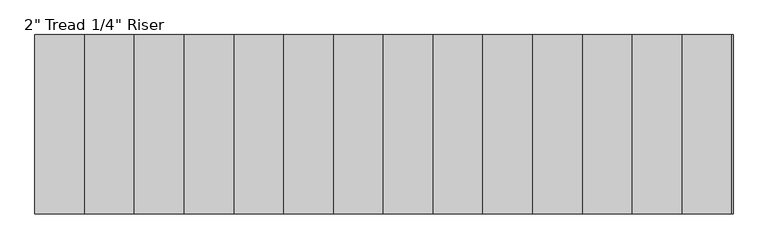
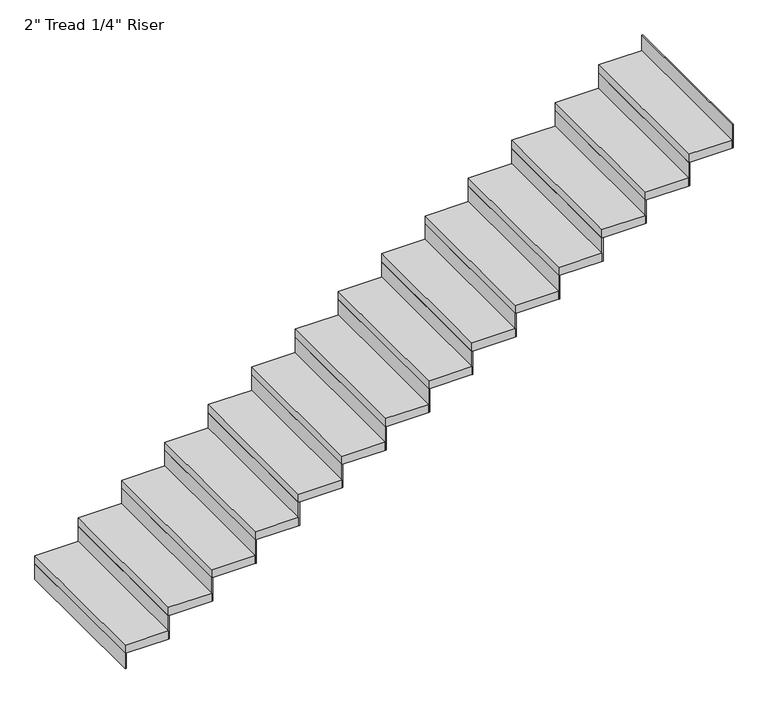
"""IFC4 building model written with IfcOpenShell, lengths in millimetres: stair flight geometry."""

from ifc_helpers import new_model, si_unit, frame, origin, origin_with_axes, place, context, project, spatial, polyline, outline, extrude, source, transform, mapped, element, save


def stair_flight_70c68906(model_context):
    return source(origin(), model_context, "Body", "SweptSolid", [
        extrude(outline(polyline([(46401.0741768, 43330.9361774), (46394.7241768, 43330.9361774), (46394.7241768, 44245.3361774), (46401.0741768, 44245.3361774), (46401.0741768, 43330.9361774)])), origin_with_axes(), (0.0, 0.0, 1.0), 94.3428571),
        extrude(outline(polyline([(46648.7241768, 44245.3361774), (46648.7241768, 43330.9361774), (46394.7241768, 43330.9361774), (46394.7241768, 44245.3361774), (46648.7241768, 44245.3361774)])), frame((0.0, 0.0, 94.3428571), z_axis=(0.0, 0.0, 1.0), x_axis=(1.0, 0.0, 0.0)), (0.0, 0.0, 1.0), 50.8),
        extrude(outline(polyline([(46655.0741768, 43330.9361774), (46648.7241768, 43330.9361774), (46648.7241768, 44245.3361774), (46655.0741768, 44245.3361774), (46655.0741768, 43330.9361774)])), frame((0.0, 0.0, 94.3428571), z_axis=(0.0, 0.0, 1.0), x_axis=(1.0, 0.0, 0.0)), (0.0, 0.0, 1.0), 145.1428571),
        extrude(outline(polyline([(46902.7241768, 44245.3361774), (46902.7241768, 43330.9361774), (46648.7241768, 43330.9361774), (46648.7241768, 44245.3361774), (46902.7241768, 44245.3361774)])), frame((0.0, 0.0, 239.4857143), z_axis=(0.0, 0.0, 1.0), x_axis=(1.0, 0.0, 0.0)), (0.0, 0.0, 1.0), 50.8),
        extrude(outline(polyline([(46909.0741768, 43330.9361774), (46902.7241768, 43330.9361774), (46902.7241768, 44245.3361774), (46909.0741768, 44245.3361774), (46909.0741768, 43330.9361774)])), frame((0.0, 0.0, 239.4857143), z_axis=(0.0, 0.0, 1.0), x_axis=(1.0, 0.0, 0.0)), (0.0, 0.0, 1.0), 145.1428571),
        extrude(outline(polyline([(47156.7241768, 44245.3361774), (47156.7241768, 43330.9361774), (46902.7241768, 43330.9361774), (46902.7241768, 44245.3361774), (47156.7241768, 44245.3361774)])), frame((0.0, 0.0, 384.6285714), z_axis=(0.0, 0.0, 1.0), x_axis=(1.0, 0.0, 0.0)), (0.0, 0.0, 1.0), 50.8),
        extrude(outline(polyline([(47163.0741768, 43330.9361774), (47156.7241768, 43330.9361774), (47156.7241768, 44245.3361774), (47163.0741768, 44245.3361774), (47163.0741768, 43330.9361774)])), frame((0.0, 0.0, 384.6285714), z_axis=(0.0, 0.0, 1.0), x_axis=(1.0, 0.0, 0.0)), (0.0, 0.0, 1.0), 145.1428571),
        extrude(outline(polyline([(47410.7241768, 44245.3361774), (47410.7241768, 43330.9361774), (47156.7241768, 43330.9361774), (47156.7241768, 44245.3361774), (47410.7241768, 44245.3361774)])), frame((0.0, 0.0, 529.7714286), z_axis=(0.0, 0.0, 1.0), x_axis=(1.0, 0.0, 0.0)), (0.0, 0.0, 1.0), 50.8),
        extrude(outline(polyline([(47417.0741768, 43330.9361774), (47410.7241768, 43330.9361774), (47410.7241768, 44245.3361774), (47417.0741768, 44245.3361774), (47417.0741768, 43330.9361774)])), frame((0.0, 0.0, 529.7714286), z_axis=(0.0, 0.0, 1.0), x_axis=(1.0, 0.0, 0.0)), (0.0, 0.0, 1.0), 145.1428571),
        extrude(outline(polyline([(47664.7241768, 44245.3361774), (47664.7241768, 43330.9361774), (47410.7241768, 43330.9361774), (47410.7241768, 44245.3361774), (47664.7241768, 44245.3361774)])), frame((0.0, 0.0, 674.9142857), z_axis=(0.0, 0.0, 1.0), x_axis=(1.0, 0.0, 0.0)), (0.0, 0.0, 1.0), 50.8),
        extrude(outline(polyline([(47671.0741768, 43330.9361774), (47664.7241768, 43330.9361774), (47664.7241768, 44245.3361774), (47671.0741768, 44245.3361774), (47671.0741768, 43330.9361774)])), frame((0.0, 0.0, 674.9142857), z_axis=(0.0, 0.0, 1.0), x_axis=(1.0, 0.0, 0.0)), (0.0, 0.0, 1.0), 145.1428571),
        extrude(outline(polyline([(47918.7241768, 44245.3361774), (47918.7241768, 43330.9361774), (47664.7241768, 43330.9361774), (47664.7241768, 44245.3361774), (47918.7241768, 44245.3361774)])), frame((0.0, 0.0, 820.0571429), z_axis=(0.0, 0.0, 1.0), x_axis=(1.0, 0.0, 0.0)), (0.0, 0.0, 1.0), 50.8),
        extrude(outline(polyline([(47925.0741768, 43330.9361774), (47918.7241768, 43330.9361774), (47918.7241768, 44245.3361774), (47925.0741768, 44245.3361774), (47925.0741768, 43330.9361774)])), frame((0.0, 0.0, 820.0571429), z_axis=(0.0, 0.0, 1.0), x_axis=(1.0, 0.0, 0.0)), (0.0, 0.0, 1.0), 145.1428571),
        extrude(outline(polyline([(48172.7241768, 44245.3361774), (48172.7241768, 43330.9361774), (47918.7241768, 43330.9361774), (47918.7241768, 44245.3361774), (48172.7241768, 44245.3361774)])), frame((0.0, 0.0, 965.2), z_axis=(0.0, 0.0, 1.0), x_axis=(1.0, 0.0, 0.0)), (0.0, 0.0, 1.0), 50.8),
        extrude(outline(polyline([(48179.0741768, 43330.9361774), (48172.7241768, 43330.9361774), (48172.7241768, 44245.3361774), (48179.0741768, 44245.3361774), (48179.0741768, 43330.9361774)])), frame((0.0, 0.0, 965.2), z_axis=(0.0, 0.0, 1.0), x_axis=(1.0, 0.0, 0.0)), (0.0, 0.0, 1.0), 145.1428571),
        extrude(outline(polyline([(48426.7241768, 44245.3361774), (48426.7241768, 43330.9361774), (48172.7241768, 43330.9361774), (48172.7241768, 44245.3361774), (48426.7241768, 44245.3361774)])), frame((0.0, 0.0, 1110.3428571), z_axis=(0.0, 0.0, 1.0), x_axis=(1.0, 0.0, 0.0)), (0.0, 0.0, 1.0), 50.8),
        extrude(outline(polyline([(48433.0741768, 43330.9361774), (48426.7241768, 43330.9361774), (48426.7241768, 44245.3361774), (48433.0741768, 44245.3361774), (48433.0741768, 43330.9361774)])), frame((0.0, 0.0, 1110.3428571), z_axis=(0.0, 0.0, 1.0), x_axis=(1.0, 0.0, 0.0)), (0.0, 0.0, 1.0), 145.1428571),
        extrude(outline(polyline([(48680.7241768, 44245.3361774), (48680.7241768, 43330.9361774), (48426.7241768, 43330.9361774), (48426.7241768, 44245.3361774), (48680.7241768, 44245.3361774)])), frame((0.0, 0.0, 1255.4857143), z_axis=(0.0, 0.0, 1.0), x_axis=(1.0, 0.0, 0.0)), (0.0, 0.0, 1.0), 50.8),
        extrude(outline(polyline([(48687.0741768, 43330.9361774), (48680.7241768, 43330.9361774), (48680.7241768, 44245.3361774), (48687.0741768, 44245.3361774), (48687.0741768, 43330.9361774)])), frame((0.0, 0.0, 1255.4857143), z_axis=(0.0, 0.0, 1.0), x_axis=(1.0, 0.0, 0.0)), (0.0, 0.0, 1.0), 145.1428571),
        extrude(outline(polyline([(48934.7241768, 44245.3361774), (48934.7241768, 43330.9361774), (48680.7241768, 43330.9361774), (48680.7241768, 44245.3361774), (48934.7241768, 44245.3361774)])), frame((0.0, 0.0, 1400.6285714), z_axis=(0.0, 0.0, 1.0), x_axis=(1.0, 0.0, 0.0)), (0.0, 0.0, 1.0), 50.8),
        extrude(outline(polyline([(48941.0741768, 43330.9361774), (48934.7241768, 43330.9361774), (48934.7241768, 44245.3361774), (48941.0741768, 44245.3361774), (48941.0741768, 43330.9361774)])), frame((0.0, 0.0, 1400.6285714), z_axis=(0.0, 0.0, 1.0), x_axis=(1.0, 0.0, 0.0)), (0.0, 0.0, 1.0), 145.1428571),
        extrude(outline(polyline([(49188.7241768, 44245.3361774), (49188.7241768, 43330.9361774), (48934.7241768, 43330.9361774), (48934.7241768, 44245.3361774), (49188.7241768, 44245.3361774)])), frame((0.0, 0.0, 1545.7714286), z_axis=(0.0, 0.0, 1.0), x_axis=(1.0, 0.0, 0.0)), (0.0, 0.0, 1.0), 50.8),
        extrude(outline(polyline([(49195.0741768, 43330.9361774), (49188.7241768, 43330.9361774), (49188.7241768, 44245.3361774), (49195.0741768, 44245.3361774), (49195.0741768, 43330.9361774)])), frame((0.0, 0.0, 1545.7714286), z_axis=(0.0, 0.0, 1.0), x_axis=(1.0, 0.0, 0.0)), (0.0, 0.0, 1.0), 145.1428571),
        extrude(outline(polyline([(49442.7241768, 44245.3361774), (49442.7241768, 43330.9361774), (49188.7241768, 43330.9361774), (49188.7241768, 44245.3361774), (49442.7241768, 44245.3361774)])), frame((0.0, 0.0, 1690.9142857), z_axis=(0.0, 0.0, 1.0), x_axis=(1.0, 0.0, 0.0)), (0.0, 0.0, 1.0), 50.8),
        extrude(outline(polyline([(49449.0741768, 43330.9361774), (49442.7241768, 43330.9361774), (49442.7241768, 44245.3361774), (49449.0741768, 44245.3361774), (49449.0741768, 43330.9361774)])), frame((0.0, 0.0, 1690.9142857), z_axis=(0.0, 0.0, 1.0), x_axis=(1.0, 0.0, 0.0)), (0.0, 0.0, 1.0), 145.1428571),
        extrude(outline(polyline([(49696.7241768, 44245.3361774), (49696.7241768, 43330.9361774), (49442.7241768, 43330.9361774), (49442.7241768, 44245.3361774), (49696.7241768, 44245.3361774)])), frame((0.0, 0.0, 1836.0571429), z_axis=(0.0, 0.0, 1.0), x_axis=(1.0, 0.0, 0.0)), (0.0, 0.0, 1.0), 50.8),
        extrude(outline(polyline([(49703.0741768, 43330.9361774), (49696.7241768, 43330.9361774), (49696.7241768, 44245.3361774), (49703.0741768, 44245.3361774), (49703.0741768, 43330.9361774)])), frame((0.0, 0.0, 1836.0571429), z_axis=(0.0, 0.0, 1.0), x_axis=(1.0, 0.0, 0.0)), (0.0, 0.0, 1.0), 145.1428571),
        extrude(outline(polyline([(49957.0741768, 43330.9361774), (49950.7241768, 43330.9361774), (49950.7241768, 44245.3361774), (49957.0741768, 44245.3361774), (49957.0741768, 43330.9361774)])), frame((0.0, 0.0, 1981.2), z_axis=(0.0, 0.0, 1.0), x_axis=(1.0, 0.0, 0.0)), (0.0, 0.0, 1.0), 145.1428571),
        extrude(outline(polyline([(49950.7241768, 44245.3361774), (49950.7241768, 43330.9361774), (49696.7241768, 43330.9361774), (49696.7241768, 44245.3361774), (49950.7241768, 44245.3361774)])), frame((0.0, 0.0, 1981.2), z_axis=(0.0, 0.0, 1.0), x_axis=(1.0, 0.0, 0.0)), (0.0, 0.0, 1.0), 50.8),
    ])


if __name__ == "__main__":
    model = new_model("IFC4")
    model_context = context("Model", 3, world=origin())
    ifc_project = project(units=[si_unit("LENGTHUNIT", "METRE", prefix="MILLI")], contexts=[model_context])
    site = spatial("IfcSite", under=ifc_project)
    building = spatial("IfcBuilding", under=site)
    placement = place(None, origin())
    stair_flight_shape = stair_flight_70c68906(model_context)
    element("IfcStairFlight", 1, ObjectType="2\" Tread 1/4\" Riser", at=placement, inside=building, context=model_context, shape_type="MappedRepresentation", body=[
        mapped(stair_flight_shape, transform((0.0, 0.0, 0.0), x_axis=(1.0, 0.0, 0.0), y_axis=(0.0, 1.0, 0.0), z_axis=(0.0, 0.0, 1.0))),
    ])
    save(model, "model.ifc")
